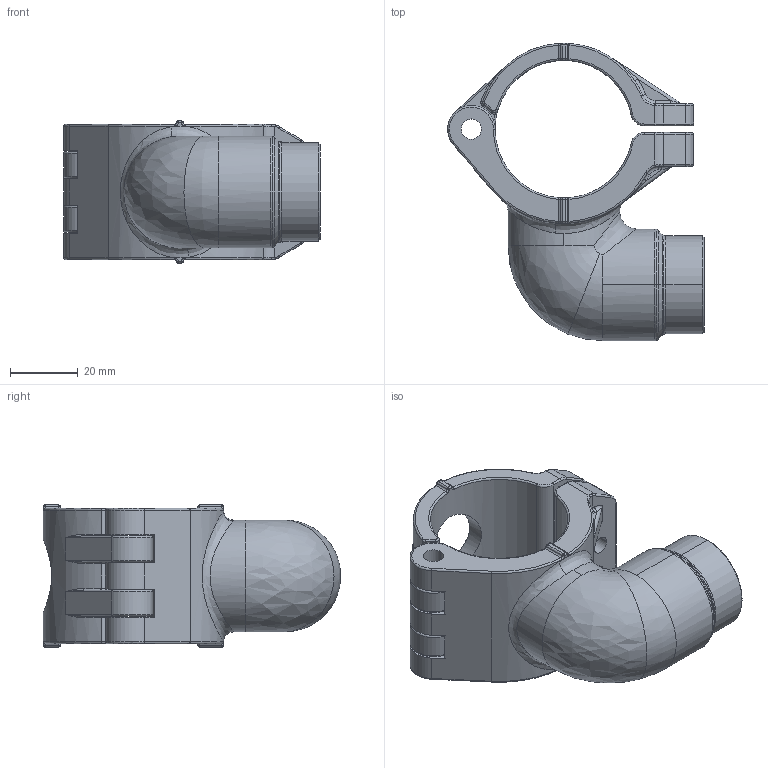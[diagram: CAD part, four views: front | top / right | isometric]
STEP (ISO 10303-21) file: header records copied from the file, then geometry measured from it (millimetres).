
FILE_DESCRIPTION(/* description */ (''),/* implementation_level */ '2;1');
FILE_NAME(/* name */ '4011_stp.stp',/* time_stamp */ '2025-06-20T11:22:44+08:00',/* author */ (''),/* organization */ (''),/* preprocessor_version */ 'ST-DEVELOPER v14',/* originating_system */ 'SIEMENS PLM Software NX 8.0',/* authorisation */ '');
FILE_SCHEMA (('AP203_CONFIGURATION_CONTROLLED_3D_DESIGN_OF_MECHANICAL_PARTS_AND_ASSEMBLIES_MIM_LF { 1 0 10303 403 2 1 2}'));
Length unit declared in the file: millimetre
Products named in the file (1): Admi144825784x86
Bounding box: 75.85 x 87.85 x 42 mm (x, y, z)
Volume: 74114.2 mm3; surface area: 27529.8 mm2
Topology: 2 solids, 2 shells, 362 faces, 895 edges, 514 vertices
Faces by surface type: cylinder 125, torus 103, bspline 56, plane 48, sphere 16, cone 14
Entity records: 16335 total; most frequent: CARTESIAN_POINT 8017, DIRECTION 1784, ORIENTED_EDGE 1734, EDGE_CURVE 867, AXIS2_PLACEMENT_3D 785, VERTEX_POINT 514, CIRCLE 478, EDGE_LOOP 385
